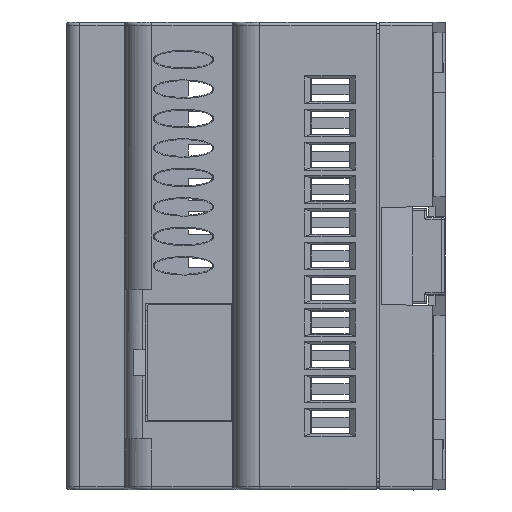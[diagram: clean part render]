
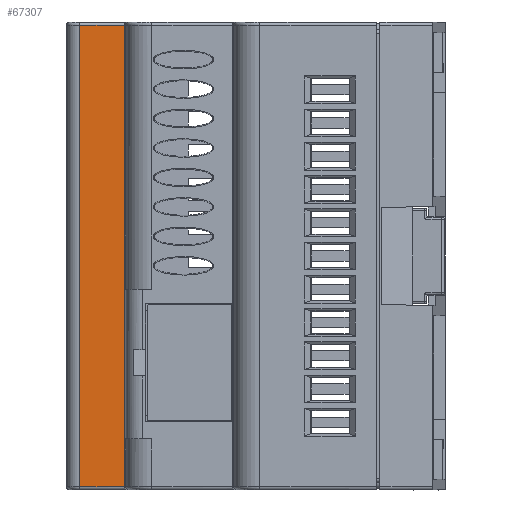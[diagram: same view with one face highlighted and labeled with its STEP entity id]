
A CAD part, left-side view. The second image highlights one B-rep face of the part: STEP entity #67307.
In plain terms, the highlighted planar face has unit normal (-1, 0.009, 0).
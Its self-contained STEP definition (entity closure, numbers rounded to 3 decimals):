
#459 = DIRECTION ( 'NONE',  ( 0.009, 1., 0. ) ) ;
#5641 = EDGE_CURVE ( 'NONE', #54640, #75034, #44102, .T. ) ;
#6040 = LINE ( 'NONE', #77809, #55516 ) ;
#11017 = CARTESIAN_POINT ( 'NONE',  ( -23., 38.5, -35.75 ) ) ;
#14560 = EDGE_LOOP ( 'NONE', ( #31596, #55568, #28273, #58194 ) ) ;
#15092 = CARTESIAN_POINT ( 'NONE',  ( -23., 38.5, 35.25 ) ) ;
#16467 = FACE_OUTER_BOUND ( 'NONE', #14560, .T. ) ;
#20296 = DIRECTION ( 'NONE',  ( -0.009, -1., 0. ) ) ;
#22151 = EDGE_CURVE ( 'NONE', #61899, #54640, #6040, .T. ) ;
#26567 = DIRECTION ( 'NONE',  ( 0., 0., -1. ) ) ;
#27113 = CARTESIAN_POINT ( 'NONE',  ( -22.94, 45.367, -35.75 ) ) ;
#28273 = ORIENTED_EDGE ( 'NONE', *, *, #41623, .F. ) ;
#28951 = VECTOR ( 'NONE', #26567, 1000. ) ;
#29209 = CARTESIAN_POINT ( 'NONE',  ( -22.93, 46.553, -35.25 ) ) ;
#29639 = CARTESIAN_POINT ( 'NONE',  ( -22.94, 45.367, 35.25 ) ) ;
#31596 = ORIENTED_EDGE ( 'NONE', *, *, #22151, .T. ) ;
#34250 = CARTESIAN_POINT ( 'NONE',  ( -22.94, 45.367, -35.25 ) ) ;
#39209 = PLANE ( 'NONE',  #65709 ) ;
#41623 = EDGE_CURVE ( 'NONE', #46092, #75034, #45895, .T. ) ;
#44102 = LINE ( 'NONE', #27113, #28951 ) ;
#45895 = LINE ( 'NONE', #29209, #61012 ) ;
#46092 = VERTEX_POINT ( 'NONE', #66085 ) ;
#52498 = CARTESIAN_POINT ( 'NONE',  ( -23., 38.5, -35.75 ) ) ;
#54640 = VERTEX_POINT ( 'NONE', #29639 ) ;
#55516 = VECTOR ( 'NONE', #459, 1000. ) ;
#55568 = ORIENTED_EDGE ( 'NONE', *, *, #5641, .T. ) ;
#56180 = DIRECTION ( 'NONE',  ( 0., 0., -1. ) ) ;
#58194 = ORIENTED_EDGE ( 'NONE', *, *, #72125, .F. ) ;
#58958 = DIRECTION ( 'NONE',  ( -1., 0.009, 0. ) ) ;
#61012 = VECTOR ( 'NONE', #74407, 1000. ) ;
#61899 = VERTEX_POINT ( 'NONE', #15092 ) ;
#64116 = VECTOR ( 'NONE', #56180, 1000. ) ;
#65709 = AXIS2_PLACEMENT_3D ( 'NONE', #52498, #58958, #20296 ) ;
#66085 = CARTESIAN_POINT ( 'NONE',  ( -23., 38.5, -35.25 ) ) ;
#67307 = ADVANCED_FACE ( 'NONE', ( #16467 ), #39209, .T. ) ;
#72125 = EDGE_CURVE ( 'NONE', #61899, #46092, #81301, .T. ) ;
#74407 = DIRECTION ( 'NONE',  ( 0.009, 1., 0. ) ) ;
#75034 = VERTEX_POINT ( 'NONE', #34250 ) ;
#77809 = CARTESIAN_POINT ( 'NONE',  ( -23., 38.5, 35.25 ) ) ;
#81301 = LINE ( 'NONE', #11017, #64116 ) ;
